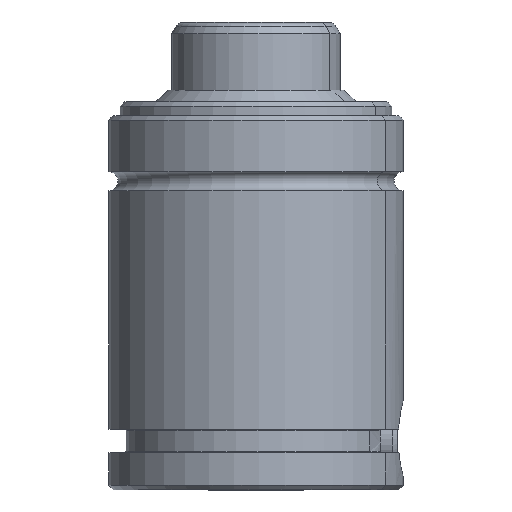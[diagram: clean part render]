
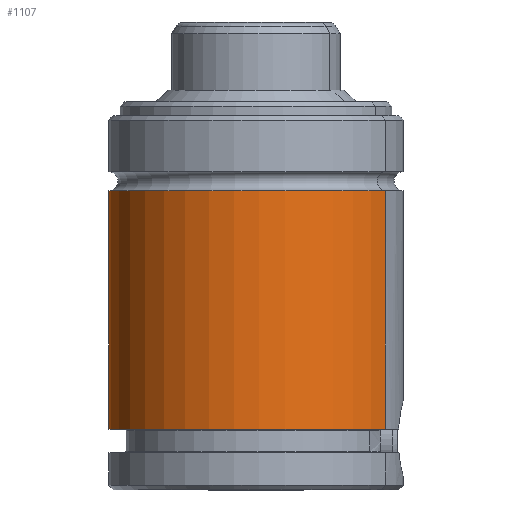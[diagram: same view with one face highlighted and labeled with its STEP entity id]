
A CAD part, front view. The second image highlights one B-rep face of the part: STEP entity #1107.
In plain terms, the highlighted cylindrical face has radius 31.5 mm (diameter 63 mm), a partial arc.
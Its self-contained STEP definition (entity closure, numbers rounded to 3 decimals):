
#641=CARTESIAN_POINT('Axis2P3D Location',(0.,0.,40.)) ;
#1002=CARTESIAN_POINT('Vertex',(27.644,-15.102,13.)) ;
#1005=CARTESIAN_POINT('Axis2P3D Location',(0.,0.,13.)) ;
#1009=CARTESIAN_POINT('Vertex',(-27.644,15.102,13.)) ;
#1040=CARTESIAN_POINT('Line Origine',(-27.644,15.102,40.)) ;
#1044=CARTESIAN_POINT('Vertex',(-27.644,15.102,63.951)) ;
#1051=CARTESIAN_POINT('Vertex',(27.644,-15.102,63.951)) ;
#1054=CARTESIAN_POINT('Line Origine',(27.644,-15.102,40.)) ;
#1096=CARTESIAN_POINT('Axis2P3D Location',(0.,0.,63.951)) ;
#642=DIRECTION('Axis2P3D Direction',(0.,0.,-1.)) ;
#643=DIRECTION('Axis2P3D XDirection',(0.878,-0.479,0.)) ;
#1006=DIRECTION('Axis2P3D Direction',(0.,0.,-1.)) ;
#1041=DIRECTION('Vector Direction',(0.,0.,-1.)) ;
#1055=DIRECTION('Vector Direction',(0.,0.,-1.)) ;
#1097=DIRECTION('Axis2P3D Direction',(0.,0.,-1.)) ;
#644=AXIS2_PLACEMENT_3D('Cylinder Axis2P3D',#641,#642,#643) ;
#1007=AXIS2_PLACEMENT_3D('Circle Axis2P3D',#1005,#1006,$) ;
#1098=AXIS2_PLACEMENT_3D('Circle Axis2P3D',#1096,#1097,$) ;
#1102=ORIENTED_EDGE('',*,*,#1046,.T.) ;
#1103=ORIENTED_EDGE('',*,*,#1011,.F.) ;
#1104=ORIENTED_EDGE('',*,*,#1058,.F.) ;
#1105=ORIENTED_EDGE('',*,*,#1100,.T.) ;
#1042=VECTOR('Line Direction',#1041,1.) ;
#1056=VECTOR('Line Direction',#1055,1.) ;
#1107=ADVANCED_FACE('',(#1106),#645,.T.) ;
#1008=CIRCLE('generated circle',#1007,31.5) ;
#1099=CIRCLE('generated circle',#1098,31.5) ;
#645=CYLINDRICAL_SURFACE('generated cylinder',#644,31.5) ;
#1011=EDGE_CURVE('',#1003,#1010,#1008,.T.) ;
#1046=EDGE_CURVE('',#1045,#1010,#1043,.T.) ;
#1058=EDGE_CURVE('',#1052,#1003,#1057,.T.) ;
#1100=EDGE_CURVE('',#1052,#1045,#1099,.T.) ;
#1101=EDGE_LOOP('',(#1102,#1103,#1104,#1105)) ;
#1106=FACE_OUTER_BOUND('',#1101,.T.) ;
#1043=LINE('Line',#1040,#1042) ;
#1057=LINE('Line',#1054,#1056) ;
#1003=VERTEX_POINT('',#1002) ;
#1010=VERTEX_POINT('',#1009) ;
#1045=VERTEX_POINT('',#1044) ;
#1052=VERTEX_POINT('',#1051) ;
